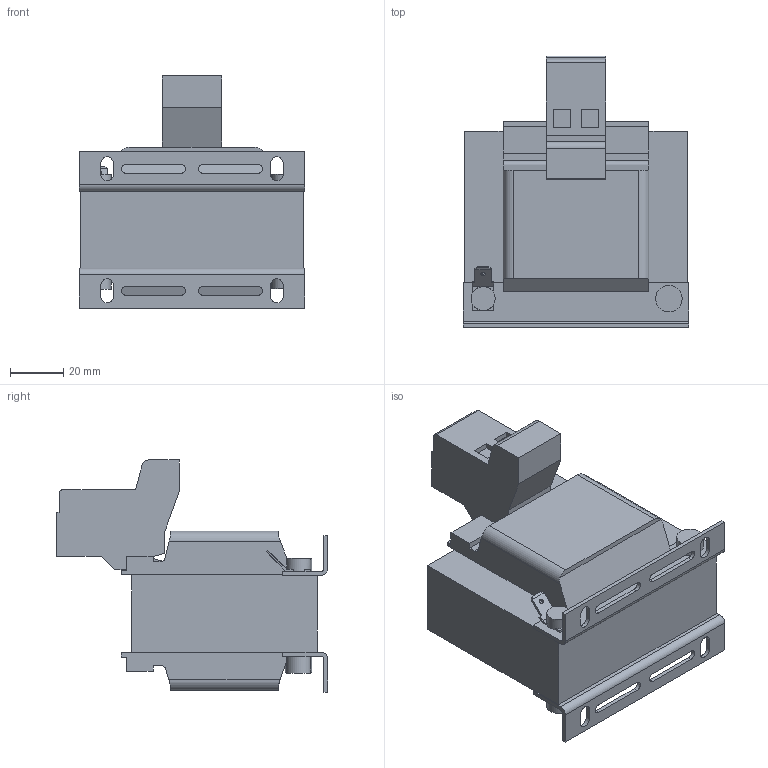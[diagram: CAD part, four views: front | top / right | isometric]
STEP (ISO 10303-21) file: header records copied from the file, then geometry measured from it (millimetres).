
FILE_DESCRIPTION (( 'STEP AP214' ), '1' );
FILE_NAME ('00Z1BX2-0010.STEP', '2022-06-09T08:01:06', ( '' ), ( '' ), 'SwSTEP 2.0', 'SolidWorks 2019', '' );
FILE_SCHEMA (( 'AUTOMOTIVE_DESIGN' ));
Length unit declared in the file: millimetre
Products named in the file (1): 00Z1BX2-0010
Bounding box: 85 x 102.4 x 87.5 mm (x, y, z)
Volume: 293105.7 mm3; surface area: 39602.5 mm2
Topology: 1 solids, 1 shells, 163 faces, 468 edges, 313 vertices
Faces by surface type: plane 128, cylinder 35
Full cylindrical faces by diameter (mm): 1.7 x1, 9 x2, 10 x2
Entity records: 5304 total; most frequent: CARTESIAN_POINT 964, ORIENTED_EDGE 918, DIRECTION 848, EDGE_CURVE 459, VECTOR 366, LINE 366, VERTEX_POINT 309, AXIS2_PLACEMENT_3D 241
